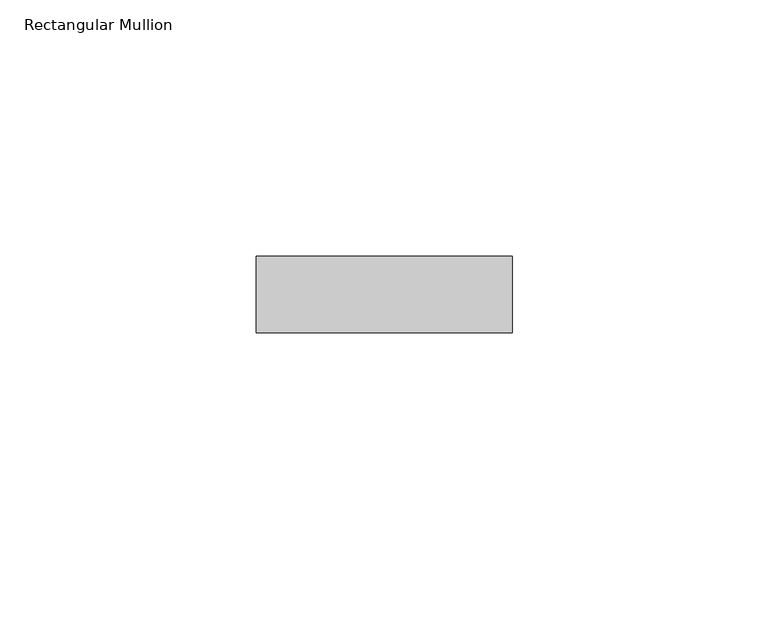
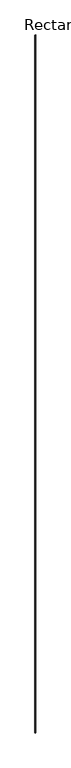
"""IFC4 building model written with IfcOpenShell, lengths in millimetres: member geometry, Rectangular Mullion : Ripa."""

from ifc_helpers import new_model, si_unit, frame, origin, place, context, project, spatial, polyline, outline, extrude, source, transform, mapped, element, save


def rectangular_mullion_31097d0e(model_context):
    return source(origin(), model_context, "Body", "SweptSolid", [
        extrude(outline(polyline([(0.0, -75.0), (-50.0, -75.0), (-50.0, -60.0), (0.0, -60.0), (0.0, -75.0)])), frame((0.0, 0.0, -46920.4270994), z_axis=(0.0, 0.0, 1.0), x_axis=(1.0, 0.0, 0.0)), (0.0, 0.0, 1.0), 46920.4270994),
    ])


if __name__ == "__main__":
    model = new_model("IFC4")
    model_context = context("Model", 3, world=origin())
    ifc_project = project(units=[si_unit("LENGTHUNIT", "METRE", prefix="MILLI")], contexts=[model_context])
    site = spatial("IfcSite", under=ifc_project)
    building = spatial("IfcBuilding", under=site)
    placement = place(None, origin())
    rectangular_mullion_shape = rectangular_mullion_31097d0e(model_context)
    element("IfcMember", 1, ObjectType="Rectangular Mullion : Ripa", at=placement, inside=building, context=model_context, shape_type="MappedRepresentation", body=[
        mapped(rectangular_mullion_shape, transform((0.0, 0.0, 0.0), x_axis=(1.0, 0.0, 0.0), y_axis=(0.0, 1.0, 0.0), z_axis=(0.0, 0.0, 1.0))),
    ])
    save(model, "model.ifc")
